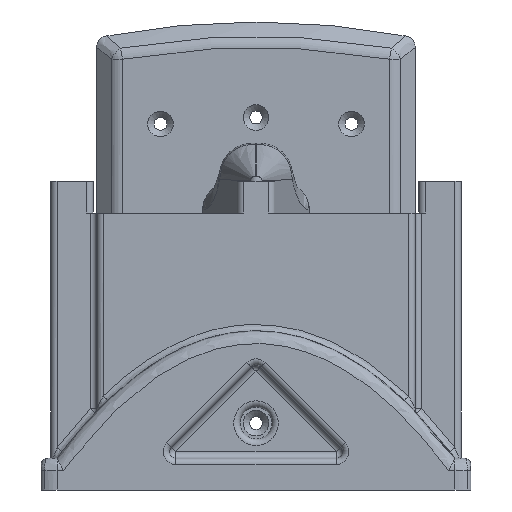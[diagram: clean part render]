
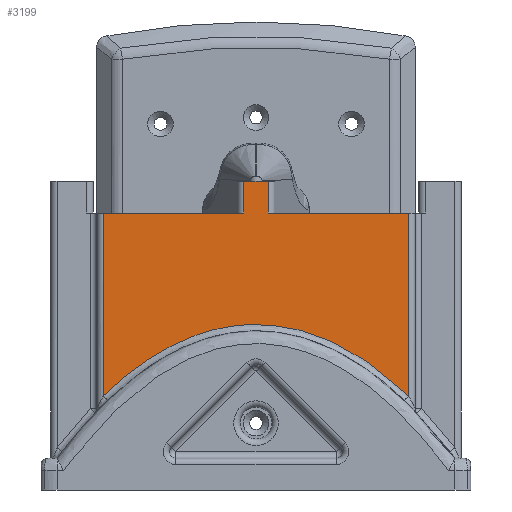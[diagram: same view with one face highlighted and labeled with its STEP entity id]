
A CAD part, front view. The second image highlights one B-rep face of the part: STEP entity #3199.
In plain terms, the highlighted planar face has unit normal (0, -1, 0).
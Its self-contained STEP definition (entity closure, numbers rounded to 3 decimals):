
#124=PLANE('',#3510);
#227=B_SPLINE_CURVE_WITH_KNOTS('',3,(#7436,#7437,#7438,#7439,#7440,#7441,
#7442,#7443,#7444,#7445),.UNSPECIFIED.,.F.,.F.,(4,1,1,1,1,1,1,4),(0.,
1.552,3.104,4.656,6.208,7.76,
9.312,10.864),.UNSPECIFIED.);
#503=FACE_OUTER_BOUND('',#721,.T.);
#721=EDGE_LOOP('',(#2828,#2829,#2830,#2831,#2832,#2833,#2834,#2835));
#822=LINE('',#6995,#986);
#825=LINE('',#7007,#989);
#833=LINE('',#7037,#997);
#841=LINE('',#7068,#1005);
#885=LINE('',#8391,#1049);
#886=LINE('',#8393,#1050);
#887=LINE('',#8394,#1051);
#986=VECTOR('',#3876,44.108);
#989=VECTOR('',#3885,44.108);
#997=VECTOR('',#3911,10.);
#1005=VECTOR('',#3945,7.783);
#1049=VECTOR('',#4253,10.);
#1050=VECTOR('',#4256,57.427);
#1051=VECTOR('',#4257,57.427);
#1417=VERTEX_POINT('',#6992);
#1418=VERTEX_POINT('',#6994);
#1423=VERTEX_POINT('',#7004);
#1424=VERTEX_POINT('',#7006);
#1437=VERTEX_POINT('',#7036);
#1445=VERTEX_POINT('',#7062);
#1493=VERTEX_POINT('',#7376);
#1494=VERTEX_POINT('',#7434);
#1786=EDGE_CURVE('',#1417,#1418,#822,.T.);
#1792=EDGE_CURVE('',#1423,#1424,#825,.T.);
#1807=EDGE_CURVE('',#1418,#1437,#833,.T.);
#1823=EDGE_CURVE('',#1437,#1445,#841,.T.);
#1903=EDGE_CURVE('',#1493,#1494,#227,.T.);
#1992=EDGE_CURVE('',#1445,#1423,#885,.T.);
#1993=EDGE_CURVE('',#1424,#1493,#886,.T.);
#1994=EDGE_CURVE('',#1494,#1417,#887,.T.);
#2828=ORIENTED_EDGE('',*,*,#1903,.F.);
#2829=ORIENTED_EDGE('',*,*,#1993,.F.);
#2830=ORIENTED_EDGE('',*,*,#1792,.F.);
#2831=ORIENTED_EDGE('',*,*,#1992,.F.);
#2832=ORIENTED_EDGE('',*,*,#1823,.F.);
#2833=ORIENTED_EDGE('',*,*,#1807,.F.);
#2834=ORIENTED_EDGE('',*,*,#1786,.F.);
#2835=ORIENTED_EDGE('',*,*,#1994,.F.);
#3199=ADVANCED_FACE('',(#503),#124,.T.);
#3510=AXIS2_PLACEMENT_3D('',#8392,#4254,#4255);
#3876=DIRECTION('',(1.,0.,0.));
#3885=DIRECTION('',(1.,0.,0.));
#3911=DIRECTION('',(0.,0.,1.));
#3945=DIRECTION('',(1.,0.,0.));
#4253=DIRECTION('',(0.,0.,-1.));
#4254=DIRECTION('center_axis',(0.,-1.,0.));
#4255=DIRECTION('ref_axis',(1.,0.,0.));
#4256=DIRECTION('',(0.,0.,-1.));
#4257=DIRECTION('',(0.,0.,1.));
#6992=CARTESIAN_POINT('',(-48.,-28.,87.));
#6994=CARTESIAN_POINT('',(-3.892,-28.,87.));
#6995=CARTESIAN_POINT('',(-48.,-28.,87.));
#7004=CARTESIAN_POINT('',(3.892,-28.,87.));
#7006=CARTESIAN_POINT('',(48.,-28.,87.));
#7007=CARTESIAN_POINT('',(3.892,-28.,87.));
#7036=CARTESIAN_POINT('',(-3.892,-28.,97.));
#7037=CARTESIAN_POINT('',(-3.892,-28.,0.));
#7062=CARTESIAN_POINT('',(3.892,-28.,97.));
#7068=CARTESIAN_POINT('',(-3.892,-28.,97.));
#7376=CARTESIAN_POINT('',(48.,-28.,29.573));
#7434=CARTESIAN_POINT('',(-48.,-28.,29.573));
#7436=CARTESIAN_POINT('Ctrl Pts',(48.,-28.,29.573));
#7437=CARTESIAN_POINT('Ctrl Pts',(44.264,-28.,33.152));
#7438=CARTESIAN_POINT('Ctrl Pts',(36.344,-28.,39.832));
#7439=CARTESIAN_POINT('Ctrl Pts',(22.852,-28.,47.686));
#7440=CARTESIAN_POINT('Ctrl Pts',(7.851,-28.,52.183));
#7441=CARTESIAN_POINT('Ctrl Pts',(-7.854,-28.,52.186));
#7442=CARTESIAN_POINT('Ctrl Pts',(-22.851,-28.,47.685));
#7443=CARTESIAN_POINT('Ctrl Pts',(-36.347,-28.,39.831));
#7444=CARTESIAN_POINT('Ctrl Pts',(-44.264,-28.,33.152));
#7445=CARTESIAN_POINT('Ctrl Pts',(-48.,-28.,29.573));
#8391=CARTESIAN_POINT('',(3.892,-28.,0.));
#8392=CARTESIAN_POINT('Origin',(-7.5,-28.,0.));
#8393=CARTESIAN_POINT('',(48.,-28.,0.));
#8394=CARTESIAN_POINT('',(-48.,-28.,0.));
